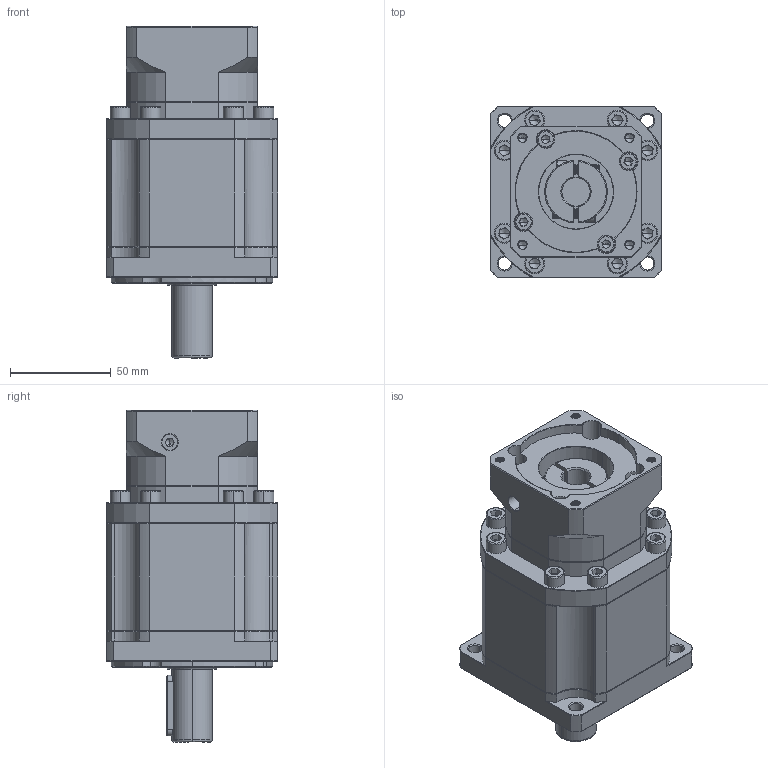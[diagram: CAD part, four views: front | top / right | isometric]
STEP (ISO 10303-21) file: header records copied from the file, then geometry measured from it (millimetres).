
FILE_DESCRIPTION (( 'STEP AP214' ), '1' );
FILE_NAME ('ZB90-D20-L3-14-60-75-M5.STEP', '2022-05-02T15:26:29', ( '' ), ( 'Microsoft' ), 'SwSTEP 2.0', 'SolidWorks 2016', '' );
FILE_SCHEMA (( 'AUTOMOTIVE_DESIGN' ));
Length unit declared in the file: millimetre
Products named in the file (1): ZB90-D20-L3-14-60-75-M5
Bounding box: 85 x 85 x 164.5 mm (x, y, z)
Volume: 659998.2 mm3; surface area: 82100.2 mm2
Topology: 6 solids, 6 shells, 2091 faces, 5487 edges, 3483 vertices
Faces by surface type: plane 1005, cylinder 409, bspline 328, cone 327, torus 22
Entity records: 110463 total; most frequent: CARTESIAN_POINT 38607, ORIENTED_EDGE 10882, DIRECTION 9012, EDGE_CURVE 5441, VERTEX_POINT 3483, LINE 3330, VECTOR 3330, AXIS2_PLACEMENT_3D 2841
